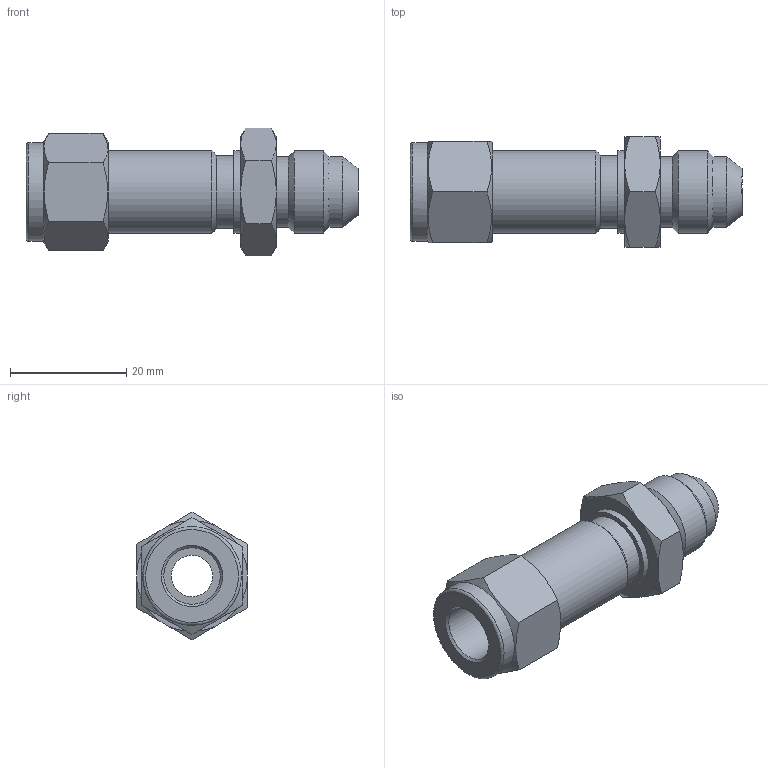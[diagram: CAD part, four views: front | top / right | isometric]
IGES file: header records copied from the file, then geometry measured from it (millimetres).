
Global section: file name: SABU-6-6U; native system: Autodesk Inventor 2016; preprocessor: unknown; author: DESIGNPC2; date: 20160125.093550; units: millimetre
Bounding box: 57.21 x 19.05 x 22 mm (x, y, z)
Volume: 7984.6 mm3; surface area: 4944.3 mm2
Topology: 1 solids, 1 shells, 49 faces, 138 edges, 97 vertices
Faces by surface type: bspline 49
